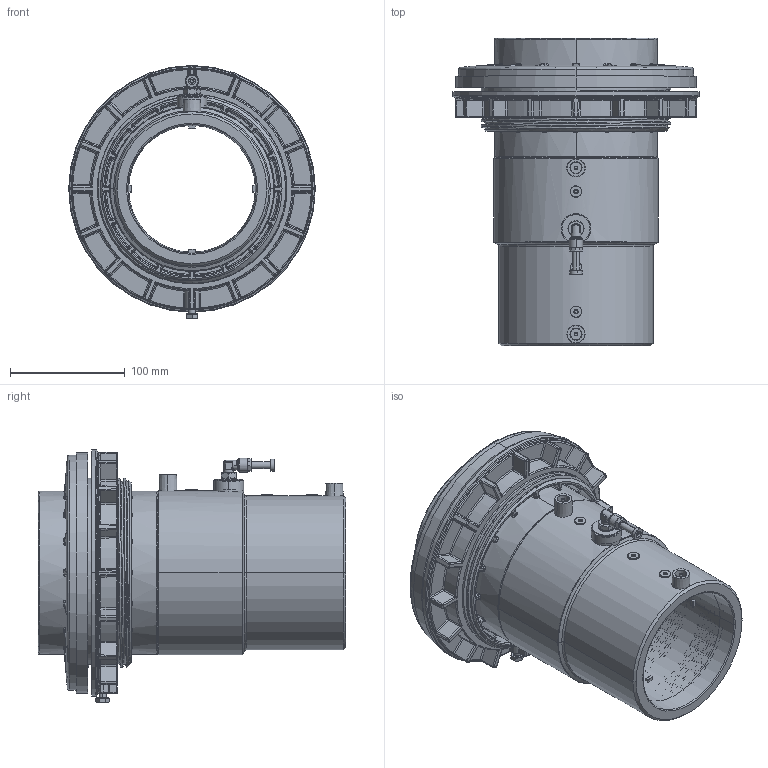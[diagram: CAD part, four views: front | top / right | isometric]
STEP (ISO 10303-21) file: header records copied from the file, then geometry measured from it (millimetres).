
FILE_DESCRIPTION (( 'STEP AP203' ), '1' );
FILE_NAME ('KPTM_125-110SC2A.step', '2011-08-08T11:43:16', ( '' ), ( '' ), 'SwSTEP 2.0', 'SolidWorks 2011', '' );
FILE_SCHEMA (( 'CONFIG_CONTROL_DESIGN' ));
Length unit declared in the file: millimetre
Products named in the file (1): KPTM_125-110SC2A
Bounding box: 215 x 268 x 220.5 mm (x, y, z)
Volume: 1581075.3 mm3; surface area: 506948.5 mm2
Topology: 2 solids, 9 shells, 2155 faces, 5165 edges, 2810 vertices
Faces by surface type: bspline 613, cylinder 531, plane 372, torus 251, sphere 216, cone 172
Entity records: 89076 total; most frequent: CARTESIAN_POINT 45825, ORIENTED_EDGE 9826, DIRECTION 8376, EDGE_CURVE 4913, AXIS2_PLACEMENT_3D 3644, VERTEX_POINT 2806, EDGE_LOOP 2209, FACE_OUTER_BOUND 2155
